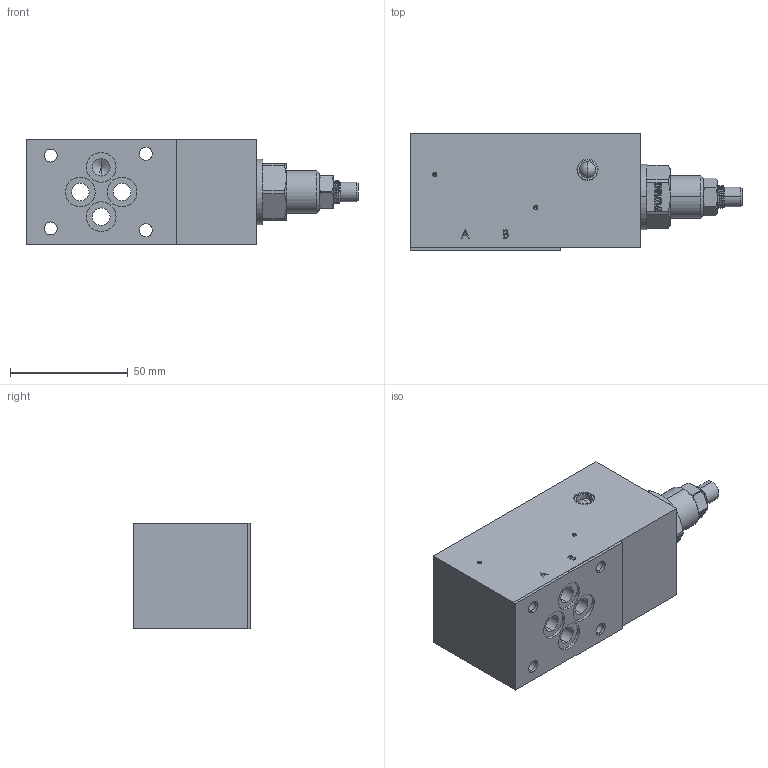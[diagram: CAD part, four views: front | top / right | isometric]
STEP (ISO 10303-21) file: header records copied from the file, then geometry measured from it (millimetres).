
FILE_DESCRIPTION (( 'STEP AP214' ), '1' );
FILE_NAME ('ADRP6 #1.STEP', '2017-04-10T12:59:08', ( '' ), ( '' ), 'SwSTEP 2.0', 'SolidWorks 2016', '' );
FILE_SCHEMA (( 'AUTOMOTIVE_DESIGN' ));
Length unit declared in the file: millimetre
Products named in the file (1): ADRP6 #1
Bounding box: 141.2 x 49.75 x 45 mm (x, y, z)
Volume: 214947.5 mm3; surface area: 38516.1 mm2
Topology: 2 solids, 5 shells, 355 faces, 906 edges, 576 vertices
Faces by surface type: plane 153, cylinder 84, cone 59, bspline 55, sphere 4
Entity records: 18094 total; most frequent: CARTESIAN_POINT 5934, ORIENTED_EDGE 1780, DIRECTION 1526, EDGE_CURVE 890, VERTEX_POINT 576, AXIS2_PLACEMENT_3D 513, LINE 500, VECTOR 500
